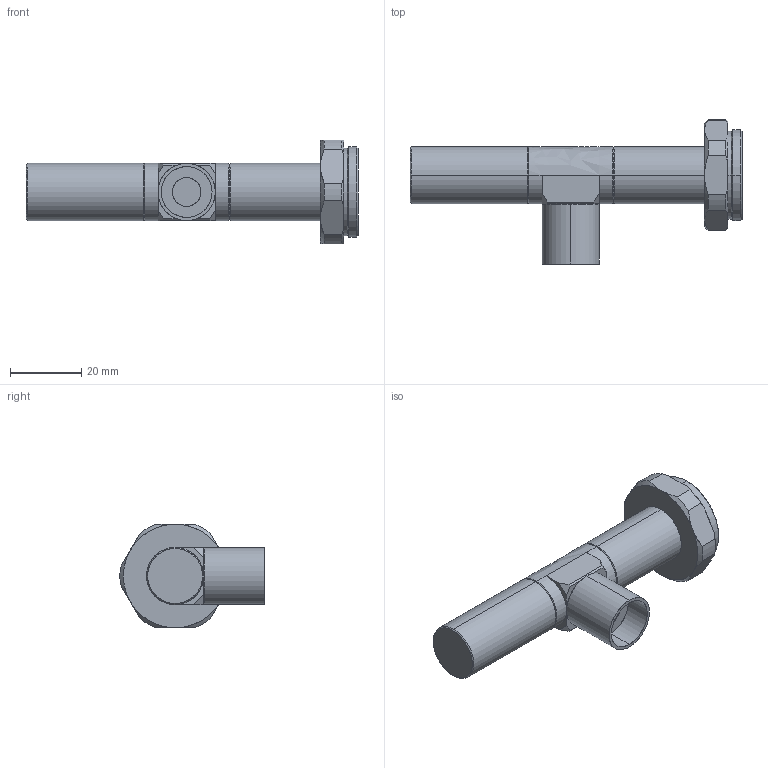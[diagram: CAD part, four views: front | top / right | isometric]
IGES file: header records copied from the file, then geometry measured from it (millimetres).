
Start section: SolidWorks IGES file using analytic representation for surfaces
Global section: file name: C:\IGES\TS-APT1X65D_Drawing_M0251F-A00100.IGS; native system: SolidWorks 2021; preprocessor: SolidWorks 2021; author: Chishima_vst; date: 230419.114430; units: millimetre
Bounding box: 92.96 x 40.38 x 29 mm (x, y, z)
Surface area: 8069.5 mm2 (no closed solid volume)
Topology: 0 solids, 0 shells, 81 faces, 795 edges, 795 vertices
Faces by surface type: revolution 54, bspline 27
